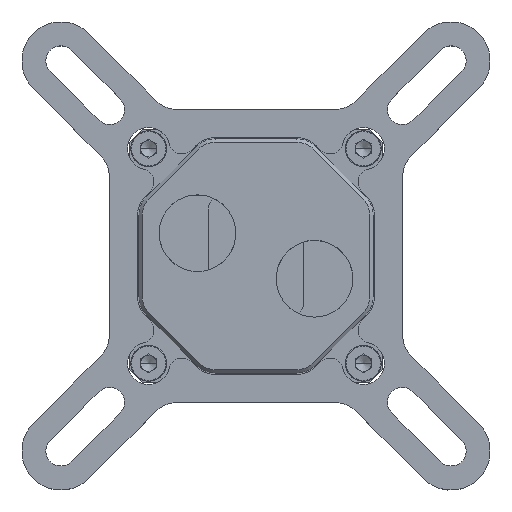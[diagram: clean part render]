
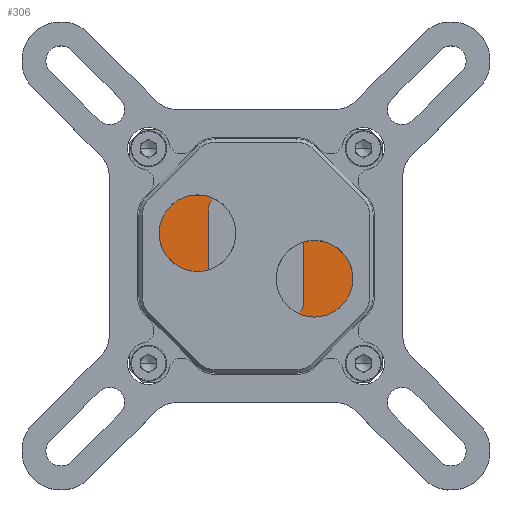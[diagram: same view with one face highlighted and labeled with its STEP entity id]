
A CAD part, top view. The second image highlights one B-rep face of the part: STEP entity #306.
In plain terms, the highlighted planar face has unit normal (0, 0, 1).
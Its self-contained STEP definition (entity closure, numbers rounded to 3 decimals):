
#306=ADVANCED_FACE('',(#640),#5480,.T.);
#640=FACE_OUTER_BOUND('',#991,.T.);
#991=EDGE_LOOP('',(#1784,#1785,#1786,#1787,#1788,#1789,#1790,#1791,#1792,
#1793,#1794,#1795,#1796,#1797,#1798,#1799));
#1784=ORIENTED_EDGE('',*,*,#3291,.T.);
#1785=ORIENTED_EDGE('',*,*,#3276,.T.);
#1786=ORIENTED_EDGE('',*,*,#3277,.T.);
#1787=ORIENTED_EDGE('',*,*,#3278,.T.);
#1788=ORIENTED_EDGE('',*,*,#3279,.T.);
#1789=ORIENTED_EDGE('',*,*,#3280,.T.);
#1790=ORIENTED_EDGE('',*,*,#3281,.T.);
#1791=ORIENTED_EDGE('',*,*,#3282,.T.);
#1792=ORIENTED_EDGE('',*,*,#3283,.T.);
#1793=ORIENTED_EDGE('',*,*,#3284,.T.);
#1794=ORIENTED_EDGE('',*,*,#3285,.T.);
#1795=ORIENTED_EDGE('',*,*,#3286,.T.);
#1796=ORIENTED_EDGE('',*,*,#3287,.T.);
#1797=ORIENTED_EDGE('',*,*,#3288,.T.);
#1798=ORIENTED_EDGE('',*,*,#3289,.T.);
#1799=ORIENTED_EDGE('',*,*,#3290,.T.);
#3276=EDGE_CURVE('',#5063,#5064,#3994,.T.);
#3277=EDGE_CURVE('',#5064,#5065,#4362,.T.);
#3278=EDGE_CURVE('',#5065,#5066,#3995,.T.);
#3279=EDGE_CURVE('',#5066,#5067,#4363,.T.);
#3280=EDGE_CURVE('',#5067,#5068,#3996,.T.);
#3281=EDGE_CURVE('',#5068,#5069,#4364,.T.);
#3282=EDGE_CURVE('',#5069,#5070,#3997,.T.);
#3283=EDGE_CURVE('',#5070,#5071,#4365,.T.);
#3284=EDGE_CURVE('',#5071,#5072,#3998,.T.);
#3285=EDGE_CURVE('',#5072,#5073,#4366,.T.);
#3286=EDGE_CURVE('',#5073,#5074,#3999,.T.);
#3287=EDGE_CURVE('',#5074,#5075,#4367,.T.);
#3288=EDGE_CURVE('',#5075,#5076,#4000,.T.);
#3289=EDGE_CURVE('',#5076,#5077,#4368,.T.);
#3290=EDGE_CURVE('',#5077,#5078,#4001,.T.);
#3291=EDGE_CURVE('',#5078,#5063,#4369,.T.);
#3994=B_SPLINE_CURVE_WITH_KNOTS('',1,(#10321,#10322),.UNSPECIFIED.,.F.,
 .F.,(2,2),(-26.972,-12.028),.UNSPECIFIED.);
#3995=B_SPLINE_CURVE_WITH_KNOTS('',1,(#10326,#10327),.UNSPECIFIED.,.F.,
 .F.,(2,2),(-30.224,-22.264),.UNSPECIFIED.);
#3996=B_SPLINE_CURVE_WITH_KNOTS('',1,(#10331,#10332),.UNSPECIFIED.,.F.,
 .F.,(2,2),(10.028,24.972),.UNSPECIFIED.);
#3997=B_SPLINE_CURVE_WITH_KNOTS('',1,(#10336,#10337),.UNSPECIFIED.,.F.,
 .F.,(2,2),(-2.766,5.194),.UNSPECIFIED.);
#3998=B_SPLINE_CURVE_WITH_KNOTS('',1,(#10341,#10342,#10343),
 .UNSPECIFIED.,.F.,.F.,(2,1,2),(7.472,14.943,22.415),
 .UNSPECIFIED.);
#3999=B_SPLINE_CURVE_WITH_KNOTS('',1,(#10347,#10348),.UNSPECIFIED.,.F.,
 .F.,(2,2),(24.692,32.652),.UNSPECIFIED.);
#4000=B_SPLINE_CURVE_WITH_KNOTS('',1,(#10352,#10353),.UNSPECIFIED.,.F.,
 .F.,(2,2),(34.93,49.873),.UNSPECIFIED.);
#4001=B_SPLINE_CURVE_WITH_KNOTS('',1,(#10357,#10358),.UNSPECIFIED.,.F.,
 .F.,(2,2),(52.151,60.11),.UNSPECIFIED.);
#4362=TRIMMED_CURVE($,#4676,(#10324),(#10325),.T.,.CARTESIAN.);
#4363=TRIMMED_CURVE($,#4677,(#10329),(#10330),.T.,.CARTESIAN.);
#4364=TRIMMED_CURVE($,#4678,(#10334),(#10335),.T.,.CARTESIAN.);
#4365=TRIMMED_CURVE($,#4679,(#10339),(#10340),.T.,.CARTESIAN.);
#4366=TRIMMED_CURVE($,#4680,(#10345),(#10346),.T.,.CARTESIAN.);
#4367=TRIMMED_CURVE($,#4681,(#10350),(#10351),.T.,.CARTESIAN.);
#4368=TRIMMED_CURVE($,#4682,(#10355),(#10356),.T.,.CARTESIAN.);
#4369=TRIMMED_CURVE($,#4683,(#10360),(#10361),.T.,.CARTESIAN.);
#4676=CIRCLE('',#6176,2.9);
#4677=CIRCLE('',#6177,2.9);
#4678=CIRCLE('',#6178,2.9);
#4679=CIRCLE('',#6179,2.9);
#4680=CIRCLE('',#6180,2.9);
#4681=CIRCLE('',#6181,2.9);
#4682=CIRCLE('',#6182,2.9);
#4683=CIRCLE('',#6183,2.9);
#5063=VERTEX_POINT('',#9949);
#5064=VERTEX_POINT('',#9950);
#5065=VERTEX_POINT('',#9951);
#5066=VERTEX_POINT('',#9952);
#5067=VERTEX_POINT('',#9953);
#5068=VERTEX_POINT('',#9954);
#5069=VERTEX_POINT('',#9955);
#5070=VERTEX_POINT('',#9956);
#5071=VERTEX_POINT('',#9957);
#5072=VERTEX_POINT('',#9958);
#5073=VERTEX_POINT('',#9959);
#5074=VERTEX_POINT('',#9960);
#5075=VERTEX_POINT('',#9961);
#5076=VERTEX_POINT('',#9962);
#5077=VERTEX_POINT('',#9963);
#5078=VERTEX_POINT('',#9964);
#5480=PLANE('',#6107);
#6107=AXIS2_PLACEMENT_3D('',#9828,#6818,$);
#6176=AXIS2_PLACEMENT_3D($,#10323,#6919,#6920);
#6177=AXIS2_PLACEMENT_3D($,#10328,#6921,#6922);
#6178=AXIS2_PLACEMENT_3D($,#10333,#6923,#6924);
#6179=AXIS2_PLACEMENT_3D($,#10338,#6925,#6926);
#6180=AXIS2_PLACEMENT_3D($,#10344,#6927,#6928);
#6181=AXIS2_PLACEMENT_3D($,#10349,#6929,#6930);
#6182=AXIS2_PLACEMENT_3D($,#10354,#6931,#6932);
#6183=AXIS2_PLACEMENT_3D($,#10359,#6933,#6934);
#6818=DIRECTION('',(0.,0.,1.));
#6919=DIRECTION('',(0.,0.,1.));
#6920=DIRECTION('',(-1.,0.,0.));
#6921=DIRECTION('',(0.,0.,1.));
#6922=DIRECTION('',(-0.707,-0.707,0.));
#6923=DIRECTION('',(0.,0.,1.));
#6924=DIRECTION('',(0.,-1.,0.));
#6925=DIRECTION('',(0.,0.,1.));
#6926=DIRECTION('',(0.707,-0.707,0.));
#6927=DIRECTION('',(0.,0.,1.));
#6928=DIRECTION('',(1.,0.,0.));
#6929=DIRECTION('',(0.,0.,1.));
#6930=DIRECTION('',(0.707,0.707,0.));
#6931=DIRECTION('',(0.,0.,1.));
#6932=DIRECTION('',(0.,1.,0.));
#6933=DIRECTION('',(0.,0.,1.));
#6934=DIRECTION('',(-0.707,0.707,0.));
#9828=CARTESIAN_POINT('',(125848.006,-55630.322,0.));
#9949=CARTESIAN_POINT('',(125851.896,-55642.74,0.));
#9950=CARTESIAN_POINT('',(125851.896,-55657.683,0.));
#9951=CARTESIAN_POINT('',(125852.745,-55659.734,0.));
#9952=CARTESIAN_POINT('',(125858.374,-55665.362,0.));
#9953=CARTESIAN_POINT('',(125860.424,-55666.212,0.));
#9954=CARTESIAN_POINT('',(125875.368,-55666.212,0.));
#9955=CARTESIAN_POINT('',(125877.418,-55665.362,0.));
#9956=CARTESIAN_POINT('',(125883.047,-55659.734,0.));
#9957=CARTESIAN_POINT('',(125883.896,-55657.683,0.));
#9958=CARTESIAN_POINT('',(125883.896,-55642.74,0.));
#9959=CARTESIAN_POINT('',(125883.047,-55640.69,0.));
#9960=CARTESIAN_POINT('',(125877.418,-55635.061,0.));
#9961=CARTESIAN_POINT('',(125875.368,-55634.212,0.));
#9962=CARTESIAN_POINT('',(125860.424,-55634.212,0.));
#9963=CARTESIAN_POINT('',(125858.374,-55635.061,0.));
#9964=CARTESIAN_POINT('',(125852.745,-55640.69,0.));
#10321=CARTESIAN_POINT('',(125851.896,-55642.74,0.));
#10322=CARTESIAN_POINT('',(125851.896,-55657.683,0.));
#10323=CARTESIAN_POINT('',(125854.796,-55657.683,0.));
#10324=CARTESIAN_POINT('',(125851.896,-55657.683,0.));
#10325=CARTESIAN_POINT('',(125852.745,-55659.734,0.));
#10326=CARTESIAN_POINT('',(125852.745,-55659.734,0.));
#10327=CARTESIAN_POINT('',(125858.374,-55665.362,0.));
#10328=CARTESIAN_POINT('',(125860.424,-55663.312,0.));
#10329=CARTESIAN_POINT('',(125858.374,-55665.362,0.));
#10330=CARTESIAN_POINT('',(125860.424,-55666.212,0.));
#10331=CARTESIAN_POINT('',(125860.424,-55666.212,0.));
#10332=CARTESIAN_POINT('',(125875.368,-55666.212,0.));
#10333=CARTESIAN_POINT('',(125875.368,-55663.312,0.));
#10334=CARTESIAN_POINT('',(125875.368,-55666.212,0.));
#10335=CARTESIAN_POINT('',(125877.418,-55665.362,0.));
#10336=CARTESIAN_POINT('',(125877.418,-55665.362,0.));
#10337=CARTESIAN_POINT('',(125883.047,-55659.734,0.));
#10338=CARTESIAN_POINT('',(125880.996,-55657.683,0.));
#10339=CARTESIAN_POINT('',(125883.047,-55659.734,0.));
#10340=CARTESIAN_POINT('',(125883.896,-55657.683,0.));
#10341=CARTESIAN_POINT('',(125883.896,-55657.683,0.));
#10342=CARTESIAN_POINT('',(125883.896,-55650.212,0.));
#10343=CARTESIAN_POINT('',(125883.896,-55642.74,0.));
#10344=CARTESIAN_POINT('',(125880.996,-55642.74,0.));
#10345=CARTESIAN_POINT('',(125883.896,-55642.74,0.));
#10346=CARTESIAN_POINT('',(125883.047,-55640.69,0.));
#10347=CARTESIAN_POINT('',(125883.047,-55640.69,0.));
#10348=CARTESIAN_POINT('',(125877.418,-55635.061,0.));
#10349=CARTESIAN_POINT('',(125875.368,-55637.112,0.));
#10350=CARTESIAN_POINT('',(125877.418,-55635.061,0.));
#10351=CARTESIAN_POINT('',(125875.368,-55634.212,0.));
#10352=CARTESIAN_POINT('',(125875.368,-55634.212,0.));
#10353=CARTESIAN_POINT('',(125860.424,-55634.212,0.));
#10354=CARTESIAN_POINT('',(125860.424,-55637.112,0.));
#10355=CARTESIAN_POINT('',(125860.424,-55634.212,0.));
#10356=CARTESIAN_POINT('',(125858.374,-55635.061,0.));
#10357=CARTESIAN_POINT('',(125858.374,-55635.061,0.));
#10358=CARTESIAN_POINT('',(125852.745,-55640.69,0.));
#10359=CARTESIAN_POINT('',(125854.796,-55642.74,0.));
#10360=CARTESIAN_POINT('',(125852.745,-55640.69,0.));
#10361=CARTESIAN_POINT('',(125851.896,-55642.74,0.));
